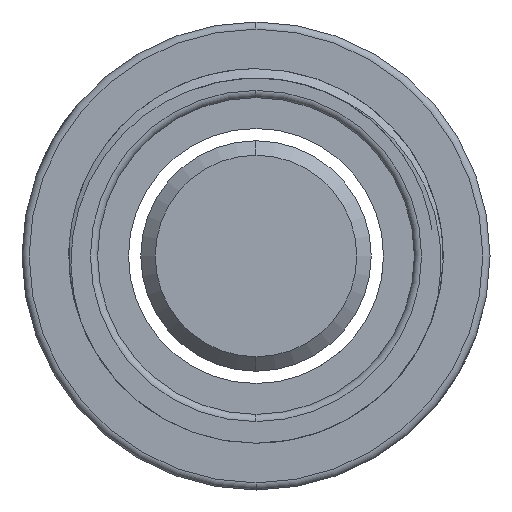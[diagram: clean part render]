
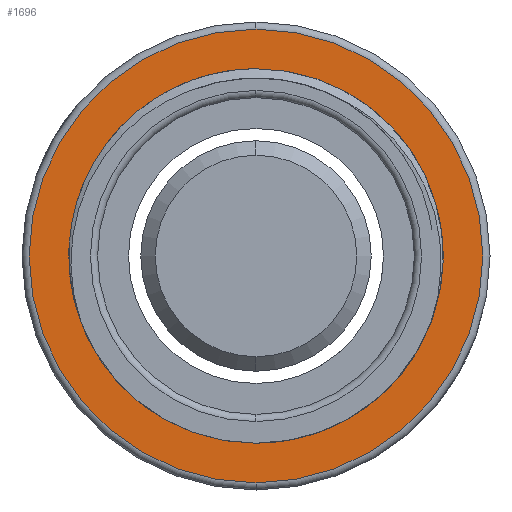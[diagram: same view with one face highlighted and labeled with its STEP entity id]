
A CAD part, left-side view. The second image highlights one B-rep face of the part: STEP entity #1696.
In plain terms, the highlighted planar face has unit normal (-1, 0, 0).
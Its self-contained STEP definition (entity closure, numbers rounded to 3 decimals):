
#101 = FACE_BOUND ( 'NONE', #1332, .T. ) ;
#122 = ORIENTED_EDGE ( 'NONE', *, *, #621, .F. ) ;
#193 = CARTESIAN_POINT ( 'NONE',  ( 12., 0., -12. ) ) ;
#268 = CARTESIAN_POINT ( 'NONE',  ( 12., 0., -15.75 ) ) ;
#335 = AXIS2_PLACEMENT_3D ( 'NONE', #1588, #865, #3037 ) ;
#401 = CIRCLE ( 'NONE', #886, 12. ) ;
#427 = DIRECTION ( 'NONE',  ( -1., 0., 0. ) ) ;
#487 = VERTEX_POINT ( 'NONE', #1185 ) ;
#553 = DIRECTION ( 'NONE',  ( 0., 0., -1. ) ) ;
#621 = EDGE_CURVE ( 'NONE', #487, #835, #401, .T. ) ;
#660 = CARTESIAN_POINT ( 'NONE',  ( 12., 0., 0. ) ) ;
#835 = VERTEX_POINT ( 'NONE', #193 ) ;
#839 = VERTEX_POINT ( 'NONE', #1165 ) ;
#865 = DIRECTION ( 'NONE',  ( 1., 0., 0. ) ) ;
#886 = AXIS2_PLACEMENT_3D ( 'NONE', #2730, #1798, #2010 ) ;
#897 = AXIS2_PLACEMENT_3D ( 'NONE', #1062, #2019, #553 ) ;
#950 = ORIENTED_EDGE ( 'NONE', *, *, #3030, .T. ) ;
#1062 = CARTESIAN_POINT ( 'NONE',  ( 12., 0., 0. ) ) ;
#1078 = CARTESIAN_POINT ( 'NONE',  ( 12., 0., 0. ) ) ;
#1165 = CARTESIAN_POINT ( 'NONE',  ( 12., 0., 15.75 ) ) ;
#1185 = CARTESIAN_POINT ( 'NONE',  ( 12., 0., 12. ) ) ;
#1319 = DIRECTION ( 'NONE',  ( 0., 0., 1. ) ) ;
#1325 = FACE_OUTER_BOUND ( 'NONE', #2444, .T. ) ;
#1332 = EDGE_LOOP ( 'NONE', ( #122, #2901 ) ) ;
#1382 = PLANE ( 'NONE',  #335 ) ;
#1588 = CARTESIAN_POINT ( 'NONE',  ( 12., 12., 0. ) ) ;
#1696 = ADVANCED_FACE ( 'NONE', ( #1325, #101 ), #1382, .F. ) ;
#1798 = DIRECTION ( 'NONE',  ( -1., 0., 0. ) ) ;
#1857 = CIRCLE ( 'NONE', #2561, 12. ) ;
#2010 = DIRECTION ( 'NONE',  ( 0., 0., 1. ) ) ;
#2019 = DIRECTION ( 'NONE',  ( -1., 0., 0. ) ) ;
#2103 = VERTEX_POINT ( 'NONE', #268 ) ;
#2275 = EDGE_CURVE ( 'NONE', #835, #487, #1857, .T. ) ;
#2444 = EDGE_LOOP ( 'NONE', ( #2887, #950 ) ) ;
#2505 = AXIS2_PLACEMENT_3D ( 'NONE', #660, #427, #2608 ) ;
#2561 = AXIS2_PLACEMENT_3D ( 'NONE', #1078, #2770, #1319 ) ;
#2608 = DIRECTION ( 'NONE',  ( 0., 0., -1. ) ) ;
#2617 = EDGE_CURVE ( 'NONE', #2103, #839, #2840, .T. ) ;
#2730 = CARTESIAN_POINT ( 'NONE',  ( 12., 0., 0. ) ) ;
#2770 = DIRECTION ( 'NONE',  ( -1., 0., 0. ) ) ;
#2840 = CIRCLE ( 'NONE', #2505, 15.75 ) ;
#2877 = CIRCLE ( 'NONE', #897, 15.75 ) ;
#2887 = ORIENTED_EDGE ( 'NONE', *, *, #2617, .T. ) ;
#2901 = ORIENTED_EDGE ( 'NONE', *, *, #2275, .F. ) ;
#3030 = EDGE_CURVE ( 'NONE', #839, #2103, #2877, .T. ) ;
#3037 = DIRECTION ( 'NONE',  ( 0., 0., -1. ) ) ;
